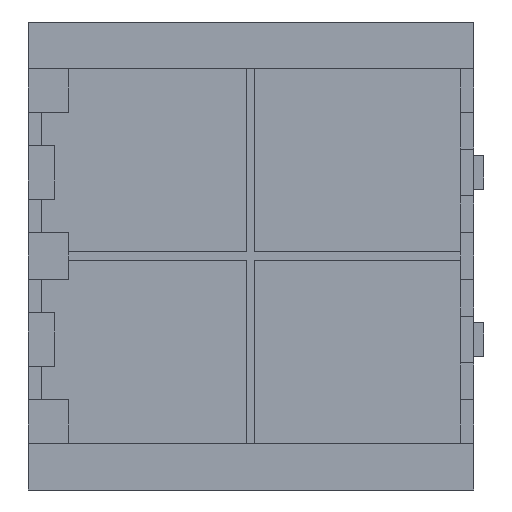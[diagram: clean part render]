
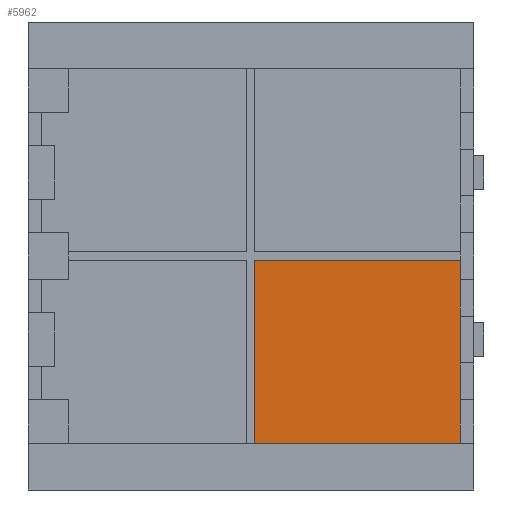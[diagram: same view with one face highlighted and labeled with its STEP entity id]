
A CAD part, left-side view. The second image highlights one B-rep face of the part: STEP entity #5962.
In plain terms, the highlighted planar face has unit normal (-1, 0, 0).
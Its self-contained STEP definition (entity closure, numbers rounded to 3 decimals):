
#100 = PLANE('',#101);
#101 = AXIS2_PLACEMENT_3D('',#102,#103,#104);
#102 = CARTESIAN_POINT('',(112.,0.,14.));
#103 = DIRECTION('',(0.,0.,1.));
#104 = DIRECTION('',(1.,0.,0.));
#1604 = VERTEX_POINT('',#1605);
#1605 = CARTESIAN_POINT('',(137.6,4.,14.));
#1619 = PLANE('',#1620);
#1620 = AXIS2_PLACEMENT_3D('',#1621,#1622,#1623);
#1621 = CARTESIAN_POINT('',(126.,4.,0.));
#1622 = DIRECTION('',(0.,1.,0.));
#1623 = DIRECTION('',(0.,0.,1.));
#1631 = EDGE_CURVE('',#1632,#1604,#1634,.T.);
#1632 = VERTEX_POINT('',#1633);
#1633 = CARTESIAN_POINT('',(137.6,65.475,14.));
#1634 = SURFACE_CURVE('',#1635,(#1639,#1645),.PCURVE_S1.);
#1635 = LINE('',#1636,#1637);
#1636 = CARTESIAN_POINT('',(137.6,0.,14.));
#1637 = VECTOR('',#1638,1.);
#1638 = DIRECTION('',(0.,-1.,0.));
#1639 = PCURVE('',#100,#1640);
#1640 = DEFINITIONAL_REPRESENTATION('',(#1641),#1644);
#1641 = B_SPLINE_CURVE_WITH_KNOTS('',1,(#1642,#1643),.UNSPECIFIED.,.F.,
  .F.,(2,2),(-133.35,0.),.PIECEWISE_BEZIER_KNOTS.);
#1642 = CARTESIAN_POINT('',(25.6,133.35));
#1643 = CARTESIAN_POINT('',(25.6,0.));
#1644 = ( GEOMETRIC_REPRESENTATION_CONTEXT(2) 
PARAMETRIC_REPRESENTATION_CONTEXT() REPRESENTATION_CONTEXT('2D SPACE',''
  ) );
#1645 = PCURVE('',#1646,#1651);
#1646 = PLANE('',#1647);
#1647 = AXIS2_PLACEMENT_3D('',#1648,#1649,#1650);
#1648 = CARTESIAN_POINT('',(137.6,0.,0.));
#1649 = DIRECTION('',(1.,0.,0.));
#1650 = DIRECTION('',(0.,0.,1.));
#1651 = DEFINITIONAL_REPRESENTATION('',(#1652),#1655);
#1652 = B_SPLINE_CURVE_WITH_KNOTS('',1,(#1653,#1654),.UNSPECIFIED.,.F.,
  .F.,(2,2),(-133.35,0.),.PIECEWISE_BEZIER_KNOTS.);
#1653 = CARTESIAN_POINT('',(14.,-133.35));
#1654 = CARTESIAN_POINT('',(14.,0.));
#1655 = ( GEOMETRIC_REPRESENTATION_CONTEXT(2) 
PARAMETRIC_REPRESENTATION_CONTEXT() REPRESENTATION_CONTEXT('2D SPACE',''
  ) );
#1673 = PLANE('',#1674);
#1674 = AXIS2_PLACEMENT_3D('',#1675,#1676,#1677);
#1675 = CARTESIAN_POINT('',(125.6,65.475,14.));
#1676 = DIRECTION('',(0.,1.,0.));
#1677 = DIRECTION('',(0.,0.,1.));
#3549 = PLANE('',#3550);
#3550 = AXIS2_PLACEMENT_3D('',#3551,#3552,#3553);
#3551 = CARTESIAN_POINT('',(125.6,0.,68.8));
#3552 = DIRECTION('',(0.,0.,1.));
#3553 = DIRECTION('',(1.,0.,0.));
#5924 = VERTEX_POINT('',#5925);
#5925 = CARTESIAN_POINT('',(137.6,65.475,68.8));
#5944 = EDGE_CURVE('',#1632,#5924,#5945,.T.);
#5945 = SURFACE_CURVE('',#5946,(#5950,#5956),.PCURVE_S1.);
#5946 = LINE('',#5947,#5948);
#5947 = CARTESIAN_POINT('',(137.6,65.475,7.));
#5948 = VECTOR('',#5949,1.);
#5949 = DIRECTION('',(0.,0.,1.));
#5950 = PCURVE('',#1673,#5951);
#5951 = DEFINITIONAL_REPRESENTATION('',(#5952),#5955);
#5952 = B_SPLINE_CURVE_WITH_KNOTS('',1,(#5953,#5954),.UNSPECIFIED.,.F.,
  .F.,(2,2),(7.,119.),.PIECEWISE_BEZIER_KNOTS.);
#5953 = CARTESIAN_POINT('',(0.,12.));
#5954 = CARTESIAN_POINT('',(112.,12.));
#5955 = ( GEOMETRIC_REPRESENTATION_CONTEXT(2) 
PARAMETRIC_REPRESENTATION_CONTEXT() REPRESENTATION_CONTEXT('2D SPACE',''
  ) );
#5956 = PCURVE('',#1646,#5957);
#5957 = DEFINITIONAL_REPRESENTATION('',(#5958),#5961);
#5958 = B_SPLINE_CURVE_WITH_KNOTS('',1,(#5959,#5960),.UNSPECIFIED.,.F.,
  .F.,(2,2),(7.,119.),.PIECEWISE_BEZIER_KNOTS.);
#5959 = CARTESIAN_POINT('',(14.,-65.475));
#5960 = CARTESIAN_POINT('',(126.,-65.475));
#5961 = ( GEOMETRIC_REPRESENTATION_CONTEXT(2) 
PARAMETRIC_REPRESENTATION_CONTEXT() REPRESENTATION_CONTEXT('2D SPACE',''
  ) );
#5962 = ADVANCED_FACE('',(#5963),#1646,.F.);
#5963 = FACE_BOUND('',#5964,.F.);
#5964 = EDGE_LOOP('',(#5965,#5988,#5989,#5990));
#5965 = ORIENTED_EDGE('',*,*,#5966,.T.);
#5966 = EDGE_CURVE('',#5967,#1604,#5969,.T.);
#5967 = VERTEX_POINT('',#5968);
#5968 = CARTESIAN_POINT('',(137.6,4.,68.8));
#5969 = SURFACE_CURVE('',#5970,(#5974,#5981),.PCURVE_S1.);
#5970 = LINE('',#5971,#5972);
#5971 = CARTESIAN_POINT('',(137.6,4.,68.8));
#5972 = VECTOR('',#5973,1.);
#5973 = DIRECTION('',(0.,0.,-1.));
#5974 = PCURVE('',#1646,#5975);
#5975 = DEFINITIONAL_REPRESENTATION('',(#5976),#5980);
#5976 = LINE('',#5977,#5978);
#5977 = CARTESIAN_POINT('',(68.8,-4.));
#5978 = VECTOR('',#5979,1.);
#5979 = DIRECTION('',(-1.,0.));
#5980 = ( GEOMETRIC_REPRESENTATION_CONTEXT(2) 
PARAMETRIC_REPRESENTATION_CONTEXT() REPRESENTATION_CONTEXT('2D SPACE',''
  ) );
#5981 = PCURVE('',#1619,#5982);
#5982 = DEFINITIONAL_REPRESENTATION('',(#5983),#5987);
#5983 = LINE('',#5984,#5985);
#5984 = CARTESIAN_POINT('',(68.8,11.6));
#5985 = VECTOR('',#5986,1.);
#5986 = DIRECTION('',(-1.,0.));
#5987 = ( GEOMETRIC_REPRESENTATION_CONTEXT(2) 
PARAMETRIC_REPRESENTATION_CONTEXT() REPRESENTATION_CONTEXT('2D SPACE',''
  ) );
#5988 = ORIENTED_EDGE('',*,*,#1631,.F.);
#5989 = ORIENTED_EDGE('',*,*,#5944,.T.);
#5990 = ORIENTED_EDGE('',*,*,#5991,.T.);
#5991 = EDGE_CURVE('',#5924,#5967,#5992,.T.);
#5992 = SURFACE_CURVE('',#5993,(#5997,#6003),.PCURVE_S1.);
#5993 = LINE('',#5994,#5995);
#5994 = CARTESIAN_POINT('',(137.6,0.,68.8));
#5995 = VECTOR('',#5996,1.);
#5996 = DIRECTION('',(0.,-1.,0.));
#5997 = PCURVE('',#1646,#5998);
#5998 = DEFINITIONAL_REPRESENTATION('',(#5999),#6002);
#5999 = B_SPLINE_CURVE_WITH_KNOTS('',1,(#6000,#6001),.UNSPECIFIED.,.F.,
  .F.,(2,2),(-65.475,0.),.PIECEWISE_BEZIER_KNOTS.);
#6000 = CARTESIAN_POINT('',(68.8,-65.475));
#6001 = CARTESIAN_POINT('',(68.8,0.));
#6002 = ( GEOMETRIC_REPRESENTATION_CONTEXT(2) 
PARAMETRIC_REPRESENTATION_CONTEXT() REPRESENTATION_CONTEXT('2D SPACE',''
  ) );
#6003 = PCURVE('',#3549,#6004);
#6004 = DEFINITIONAL_REPRESENTATION('',(#6005),#6008);
#6005 = B_SPLINE_CURVE_WITH_KNOTS('',1,(#6006,#6007),.UNSPECIFIED.,.F.,
  .F.,(2,2),(-65.475,0.),.PIECEWISE_BEZIER_KNOTS.);
#6006 = CARTESIAN_POINT('',(12.,65.475));
#6007 = CARTESIAN_POINT('',(12.,0.));
#6008 = ( GEOMETRIC_REPRESENTATION_CONTEXT(2) 
PARAMETRIC_REPRESENTATION_CONTEXT() REPRESENTATION_CONTEXT('2D SPACE',''
  ) );
